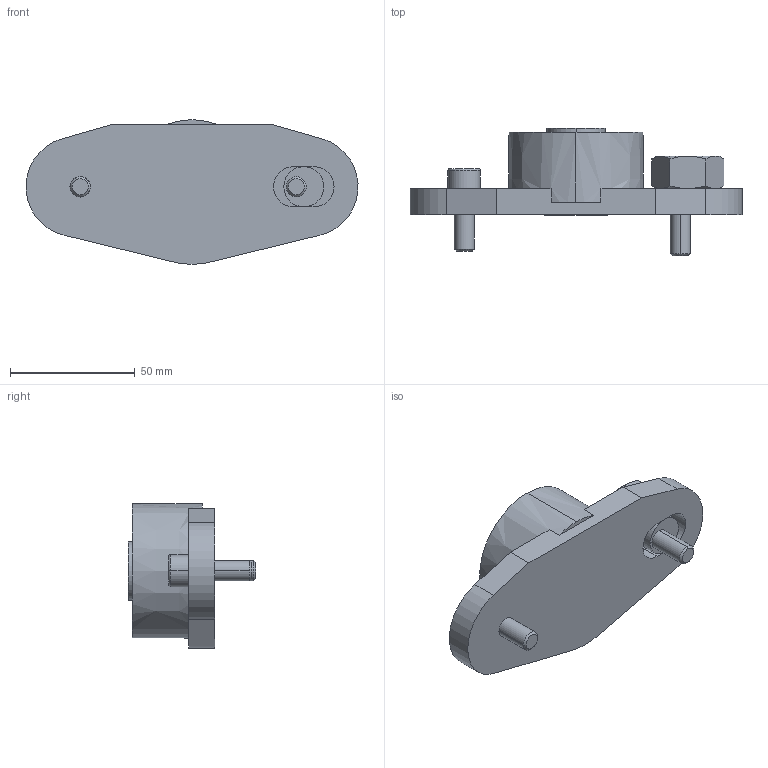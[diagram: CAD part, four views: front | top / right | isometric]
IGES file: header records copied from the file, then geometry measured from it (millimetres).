
Start section: 3D InterOp IGES (v. 2019 1.0.2), Spatial Corp. Copyright (c) 1999-2017.
Global section: file name: BHR 54 E.igs; native system: Spatial Corp.; preprocessor: 3D InterOp GENERIC/IGES 3.0; author: Noname; organization: Noname; date: 20220628.172230; units: millimetre
Bounding box: 132.91 x 51.1 x 57.8 mm (x, y, z)
Surface area: 24076.2 mm2 (no closed solid volume)
Topology: 0 solids, 0 shells, 107 faces, 502 edges, 500 vertices
Faces by surface type: revolution 53, extrusion 52, bspline 2
